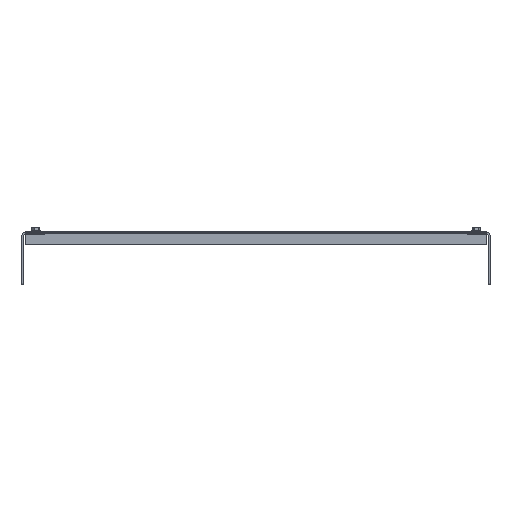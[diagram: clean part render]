
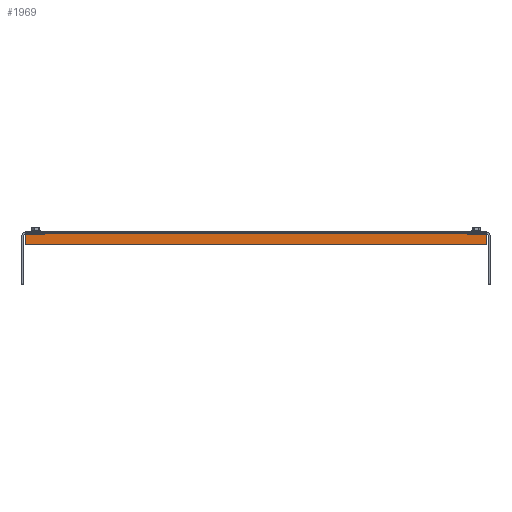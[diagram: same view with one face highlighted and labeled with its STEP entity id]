
A CAD part, front view. The second image highlights one B-rep face of the part: STEP entity #1969.
In plain terms, the highlighted planar face has unit normal (0, -1, 0).
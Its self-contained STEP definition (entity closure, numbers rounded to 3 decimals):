
#548 = CARTESIAN_POINT ( 'NONE',  ( -252.5, -26.5, 0. ) ) ;
#1813 = ORIENTED_EDGE ( 'NONE', *, *, #53548, .F. ) ;
#1969 = ADVANCED_FACE ( 'NONE', ( #40210 ), #28550, .F. ) ;
#3080 = VERTEX_POINT ( 'NONE', #28216 ) ;
#4682 = CARTESIAN_POINT ( 'NONE',  ( 252.5, -26.5, 0. ) ) ;
#5229 = VERTEX_POINT ( 'NONE', #27695 ) ;
#5493 = EDGE_CURVE ( 'NONE', #25228, #5229, #19738, .T. ) ;
#8509 = DIRECTION ( 'NONE',  ( 0., 0., -1. ) ) ;
#8700 = EDGE_LOOP ( 'NONE', ( #43797, #1813, #18716, #18836 ) ) ;
#8771 = DIRECTION ( 'NONE',  ( 0., 0., -1. ) ) ;
#8869 = EDGE_CURVE ( 'NONE', #25228, #28243, #9317, .T. ) ;
#9317 = LINE ( 'NONE', #42418, #38529 ) ;
#12338 = DIRECTION ( 'NONE',  ( -1., 0., 0. ) ) ;
#12650 = LINE ( 'NONE', #548, #12842 ) ;
#12842 = VECTOR ( 'NONE', #8509, 1000. ) ;
#17694 = DIRECTION ( 'NONE',  ( -1., 0., 0. ) ) ;
#18716 = ORIENTED_EDGE ( 'NONE', *, *, #8869, .F. ) ;
#18836 = ORIENTED_EDGE ( 'NONE', *, *, #5493, .T. ) ;
#19738 = LINE ( 'NONE', #36865, #29984 ) ;
#21380 = DIRECTION ( 'NONE',  ( 0., 1., 0. ) ) ;
#25228 = VERTEX_POINT ( 'NONE', #52933 ) ;
#26746 = LINE ( 'NONE', #30366, #44605 ) ;
#27695 = CARTESIAN_POINT ( 'NONE',  ( -252.5, -26.5, -2.4 ) ) ;
#28216 = CARTESIAN_POINT ( 'NONE',  ( -252.5, -26.5, -15. ) ) ;
#28243 = VERTEX_POINT ( 'NONE', #40434 ) ;
#28550 = PLANE ( 'NONE',  #46385 ) ;
#29984 = VECTOR ( 'NONE', #12338, 1000. ) ;
#30366 = CARTESIAN_POINT ( 'NONE',  ( 252.5, -26.5, -15. ) ) ;
#36865 = CARTESIAN_POINT ( 'NONE',  ( 252.5, -26.5, -2.4 ) ) ;
#37996 = DIRECTION ( 'NONE',  ( 0., 0., 1. ) ) ;
#38529 = VECTOR ( 'NONE', #8771, 1000. ) ;
#40210 = FACE_OUTER_BOUND ( 'NONE', #8700, .T. ) ;
#40434 = CARTESIAN_POINT ( 'NONE',  ( 252.5, -26.5, -15. ) ) ;
#42418 = CARTESIAN_POINT ( 'NONE',  ( 252.5, -26.5, 0. ) ) ;
#43797 = ORIENTED_EDGE ( 'NONE', *, *, #45096, .T. ) ;
#44605 = VECTOR ( 'NONE', #17694, 1000. ) ;
#45096 = EDGE_CURVE ( 'NONE', #5229, #3080, #12650, .T. ) ;
#46385 = AXIS2_PLACEMENT_3D ( 'NONE', #4682, #21380, #37996 ) ;
#52933 = CARTESIAN_POINT ( 'NONE',  ( 252.5, -26.5, -2.4 ) ) ;
#53548 = EDGE_CURVE ( 'NONE', #28243, #3080, #26746, .T. ) ;
